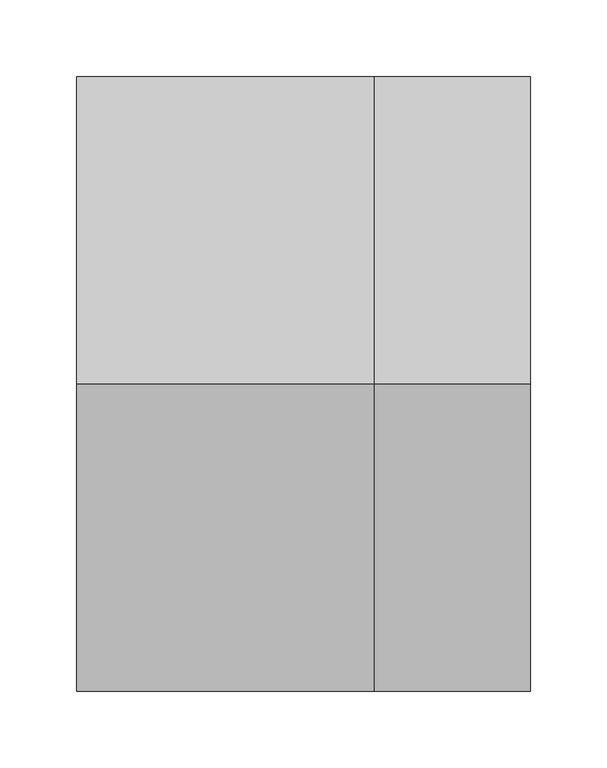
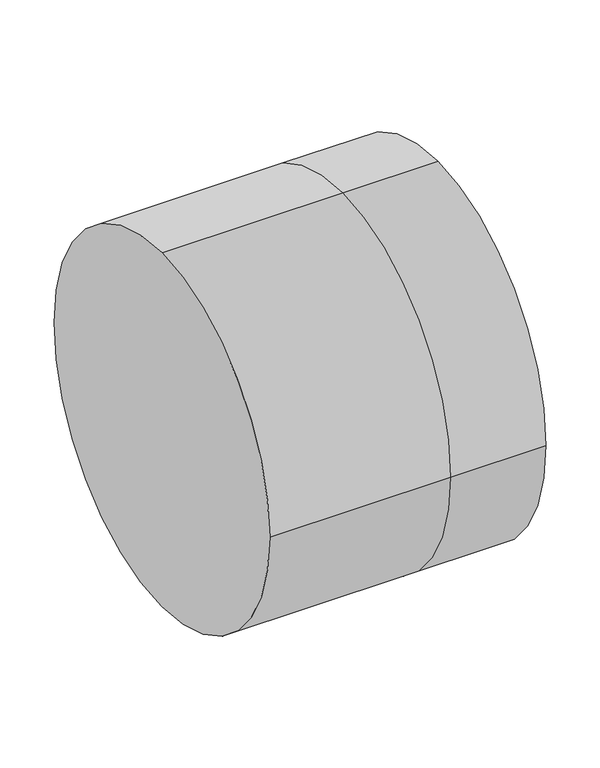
"""IFC4 building model written with IfcOpenShell, lengths in millimetres: duct fitting geometry, M_Encaixe de duto redondo : Padrão."""

from ifc_helpers import new_model, si_unit, frame, origin, place, context, project, spatial, circle_curve, source, transform, mapped, element, save
from ifc_brep_helpers import plane_surface, cylinder_surface, advanced_brep


def duct_fitting_f399081e(model_context):
    return source(origin(), model_context, "Body", "AdvancedBrep", [
        advanced_brep(
        [(101.6, 0.0, 200.0), (101.6, -200.0, 0.0), (101.6, 0.0, -200.0), (101.6, 200.0, 0.0), (0.0, 200.0, 0.0), (0.0, 0.0, 200.0), (0.0, 0.0, -200.0), (0.0, -200.0, 0.0), (-193.904, 0.0, 200.0), (-193.904, 200.0, 0.0), (-193.904, 0.0, -200.0), (-193.904, -200.0, 0.0)],
        [
            (0, 1, circle_curve(frame((101.6, 0.0, 0.0), z_axis=(1.0, 0.0, 0.0), x_axis=(0.0, 1.0, 0.0)), 200.0)),
            (1, 2, circle_curve(frame((101.6, 0.0, 0.0), z_axis=(1.0, 0.0, 0.0), x_axis=(0.0, 1.0, 0.0)), 200.0)),
            (2, 3, circle_curve(frame((101.6, 0.0, 0.0), z_axis=(1.0, 0.0, 0.0), x_axis=(0.0, 1.0, 0.0)), 200.0)),
            (3, 0, circle_curve(frame((101.6, 0.0, 0.0), z_axis=(1.0, 0.0, 0.0), x_axis=(0.0, 1.0, 0.0)), 200.0)),
            (3, 4),
            (4, 5, circle_curve(frame((0.0, 0.0, 0.0), z_axis=(1.0, 0.0, 0.0), x_axis=(0.0, 1.0, 0.0)), 200.0)),
            (5, 0),
            (2, 6),
            (6, 4, circle_curve(frame((0.0, 0.0, 0.0), z_axis=(1.0, 0.0, 0.0), x_axis=(0.0, 1.0, 0.0)), 200.0)),
            (1, 7),
            (7, 6, circle_curve(frame((0.0, 0.0, 0.0), z_axis=(1.0, 0.0, 0.0), x_axis=(0.0, 1.0, 0.0)), 200.0)),
            (5, 7, circle_curve(frame((0.0, 0.0, 0.0), z_axis=(1.0, 0.0, 0.0), x_axis=(0.0, 1.0, 0.0)), 200.0)),
            (8, 9, circle_curve(frame((-193.904, 0.0, 0.0), z_axis=(-1.0, 0.0, 0.0), x_axis=(0.0, 1.0, 0.0)), 200.0)),
            (9, 10, circle_curve(frame((-193.904, 0.0, 0.0), z_axis=(-1.0, 0.0, 0.0), x_axis=(0.0, 1.0, 0.0)), 200.0)),
            (10, 11, circle_curve(frame((-193.904, 0.0, 0.0), z_axis=(-1.0, 0.0, 0.0), x_axis=(0.0, 1.0, 0.0)), 200.0)),
            (11, 8, circle_curve(frame((-193.904, 0.0, 0.0), z_axis=(-1.0, 0.0, 0.0), x_axis=(0.0, 1.0, 0.0)), 200.0)),
            (8, 5),
            (4, 9),
            (6, 10),
            (7, 11),
        ],
        [
            plane_surface(frame((101.6, 0.0, 0.0), z_axis=(1.0, 0.0, 0.0), x_axis=(0.0, 0.0, 1.0))),
            cylinder_surface(frame((0.0, 0.0, 0.0), z_axis=(-1.0, 0.0, 0.0), x_axis=(0.0, 1.0, 0.0)), 200.0),
            plane_surface(frame((-193.904, 0.0, 0.0), z_axis=(-1.0, 0.0, 0.0), x_axis=(0.0, 0.0, 1.0))),
            cylinder_surface(frame((-193.904, 0.0, 0.0), z_axis=(-1.0, 0.0, 0.0), x_axis=(0.0, 1.0, 0.0)), 200.0),
        ],
        [
            (0, [[1, 2, 3, 4]]),
            (1, [[-4, 5, 6, 7]]),
            (1, [[-3, 8, 9, -5]]),
            (1, [[-2, 10, 11, -8]]),
            (1, [[-1, -7, 12, -10]]),
            (2, [[13, 14, 15, 16]]),
            (3, [[-13, 17, -6, 18]]),
            (3, [[-14, -18, -9, 19]]),
            (3, [[-15, -19, -11, 20]]),
            (3, [[-16, -20, -12, -17]]),
        ],
    ),
    ])


if __name__ == "__main__":
    model = new_model("IFC4")
    model_context = context("Model", 3, world=origin())
    ifc_project = project(units=[si_unit("LENGTHUNIT", "METRE", prefix="MILLI")], contexts=[model_context])
    site = spatial("IfcSite", under=ifc_project)
    building = spatial("IfcBuilding", under=site)
    placement = place(None, origin())
    duct_fitting_shape = duct_fitting_f399081e(model_context)
    element("IfcDuctFitting", 1, ObjectType="M_Encaixe de duto redondo : Padrão", at=placement, inside=building, context=model_context, shape_type="MappedRepresentation", body=[
        mapped(duct_fitting_shape, transform((0.0, 0.0, 0.0), x_axis=(1.0, 0.0, 0.0), y_axis=(0.0, 1.0, 0.0), z_axis=(0.0, 0.0, 1.0))),
    ])
    save(model, "model.ifc")
